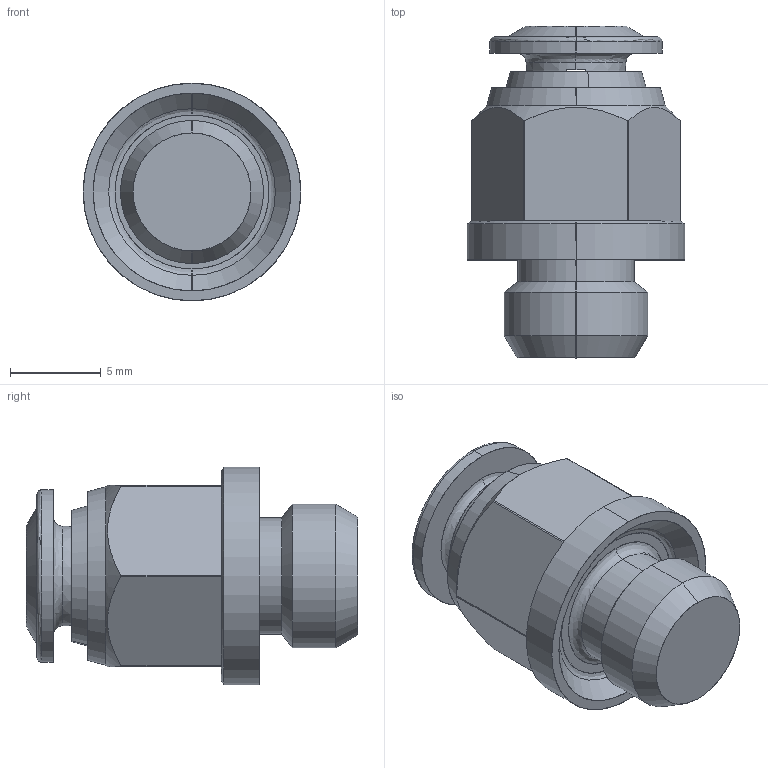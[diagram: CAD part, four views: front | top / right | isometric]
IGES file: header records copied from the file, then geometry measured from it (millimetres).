
Start section: SolidWorks IGES file using analytic representation for surfaces
Global section: file name: K:\Disegni Esecutivi\SERIE 57000\ASSIEMI_57000\57020\Assiemi STEP\5702000033A.IGS; native system: SolidWorks 2016; preprocessor: SolidWorks 2016; author: cad08; date: 200907.093928; units: millimetre
Bounding box: 12 x 18.3 x 12 mm (x, y, z)
Surface area: 901.1 mm2 (no closed solid volume)
Topology: 0 solids, 0 shells, 62 faces, 860 edges, 860 vertices
Faces by surface type: bspline 32, revolution 30
